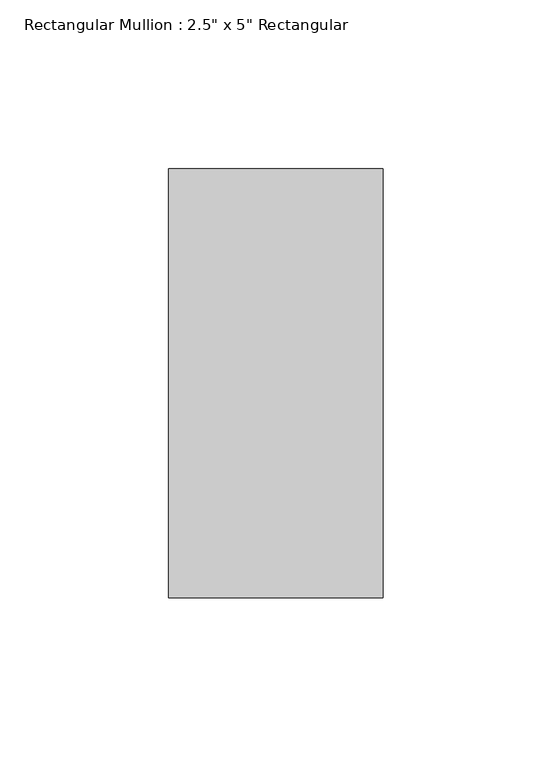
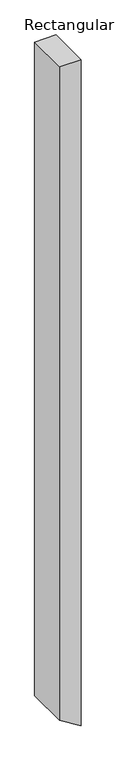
"""IFC4 building model written with IfcOpenShell, lengths in millimetres: member geometry."""

import ifcopenshell
import ifcopenshell.guid

model = None  # the IFC model being written
_history = None  # IfcOwnerHistory: only IFC2X3 demands one
_inside = {}  # id of a spatial element -> (the spatial element, [elements in it])
_under = {}  # id of a project, library or spatial element -> (it, [spatial elements below it])
_declared = {}  # id of a project -> (the project, [libraries it declares])
_typed = {}  # id of a type object -> (the type object, [elements of that type])
_made_of = {}  # id of a material, layer set ... -> (it, [elements and type objects made of it])


def new_model(schema):
    """Start an empty IFC model of exactly this schema.

    Asked for "IFC4X3", IfcOpenShell would pick the latest addendum, in which some entities
    have other attributes; the version numbers below select the first issue.
    IFC2X3 requires an IfcOwnerHistory on every rooted entity: one is made here for all.
    """
    global model, _history
    if schema == "IFC4X3":
        model = ifcopenshell.file(schema_version=(4, 3, 0, 0))
    else:
        model = ifcopenshell.file(schema=schema)
    _inside.clear()
    _under.clear()
    _declared.clear()
    _typed.clear()
    _made_of.clear()
    _history = None
    if model.schema == "IFC2X3":
        org = make("IfcOrganization", Name="unknown")
        user = make(
            "IfcPersonAndOrganization",
            ThePerson=make("IfcPerson", FamilyName="unknown"),
            TheOrganization=org,
        )
        app = make(
            "IfcApplication",
            ApplicationDeveloper=org,
            Version="unknown",
            ApplicationFullName="unknown",
            ApplicationIdentifier="unknown",
        )
        _history = make(
            "IfcOwnerHistory",
            OwningUser=user,
            OwningApplication=app,
            ChangeAction="ADDED",
            CreationDate=0,
        )
    return model


def make(cls, **values):
    """One entity of the class cls with the attributes given. An attribute that is None is left unset."""
    return model.create_entity(
        cls, **{name: value for name, value in values.items() if value is not None}
    )


def rooted(cls, **values):
    """An entity with a GlobalId (a new one), such as an element, a storey or a relation."""
    return make(cls, GlobalId=ifcopenshell.guid.new(), OwnerHistory=_history, **values)


def si_unit(unit_type, name, prefix=None):
    """IfcSIUnit, for example si_unit("LENGTHUNIT", "METRE", prefix="MILLI")."""
    return make("IfcSIUnit", UnitType=unit_type, Prefix=prefix, Name=name)


def assignment(units):
    """IfcUnitAssignment: the units of a project."""
    return None if units is None else make("IfcUnitAssignment", Units=units)


def point(xyz):
    """IfcCartesianPoint."""
    return None if xyz is None else make("IfcCartesianPoint", Coordinates=xyz)


def direction(xyz):
    """IfcDirection."""
    return None if xyz is None else make("IfcDirection", DirectionRatios=xyz)


def frame(location, z_axis=None, x_axis=None):
    """IfcAxis2Placement3D, a coordinate frame: its origin and axes. An axis left out is left unset."""
    return make(
        "IfcAxis2Placement3D",
        Location=point(location),
        Axis=direction(z_axis),
        RefDirection=direction(x_axis),
    )


def origin():
    """The frame at (0, 0, 0) with its axes left unset."""
    return frame((0.0, 0.0, 0.0))


def place(relative_to, where):
    """IfcLocalPlacement: puts the frame where relative to a parent placement (None: the world)."""
    return make(
        "IfcLocalPlacement", PlacementRelTo=relative_to, RelativePlacement=where
    )


def context(
    kind, dimensions, precision=None, world=None, true_north=None, identifier=None
):
    """IfcGeometricRepresentationContext, for example the 3D "Model" context."""
    return make(
        "IfcGeometricRepresentationContext",
        ContextIdentifier=identifier,
        ContextType=kind,
        CoordinateSpaceDimension=dimensions,
        Precision=precision,
        WorldCoordinateSystem=world,
        TrueNorth=true_north,
    )


def project(units=None, contexts=None):
    """IfcProject with its units and contexts."""
    return rooted(
        "IfcProject",
        Name="project",
        RepresentationContexts=contexts,
        UnitsInContext=assignment(units),
    )


def spatial(cls, under=None, at=None, **own):
    """A site, building, storey or space (cls), placed at a placement, below another one or the project."""
    s = rooted(cls, ObjectPlacement=at, **own)
    if under is not None:
        _under.setdefault(under.id(), (under, []))[1].append(s)
    return s


def polyline(points):
    """IfcPolyline through the points."""
    return make("IfcPolyline", Points=[point(p) for p in points])


def outline(outer, holes=None, kind="AREA"):
    """IfcArbitraryClosedProfileDef: a profile drawn as a closed curve; with holes, ...WithVoids."""
    if holes is None:
        return make("IfcArbitraryClosedProfileDef", ProfileType=kind, OuterCurve=outer)
    return make(
        "IfcArbitraryProfileDefWithVoids",
        ProfileType=kind,
        OuterCurve=outer,
        InnerCurves=holes,
    )


def extrude(swept, where, along, depth):
    """IfcExtrudedAreaSolid: the profile swept, set in the frame where, extruded along a direction by depth."""
    return make(
        "IfcExtrudedAreaSolid",
        SweptArea=swept,
        Position=where,
        ExtrudedDirection=direction(along),
        Depth=depth,
    )


def shape(context_of_items, identifier, shape_type, items):
    """IfcShapeRepresentation: the items that make up one representation, for example the "Body"."""
    return make(
        "IfcShapeRepresentation",
        ContextOfItems=context_of_items,
        RepresentationIdentifier=identifier,
        RepresentationType=shape_type,
        Items=items,
    )


def source(mapping_origin, context_of_items, identifier, shape_type, items):
    """IfcRepresentationMap: a shape defined once, which mapped items show again and again."""
    return make(
        "IfcRepresentationMap",
        MappingOrigin=mapping_origin,
        MappedRepresentation=shape(context_of_items, identifier, shape_type, items),
    )


def transform(
    local_origin,
    x_axis=None,
    y_axis=None,
    z_axis=None,
    scale=None,
    scale2=None,
    scale3=None,
    uniform=True,
):
    """IfcCartesianTransformationOperator3D, or its non-uniform kind. x_axis, y_axis, z_axis: its Axis1, 2, 3."""
    if uniform:
        return make(
            "IfcCartesianTransformationOperator3D",
            Axis1=direction(x_axis),
            Axis2=direction(y_axis),
            LocalOrigin=point(local_origin),
            Scale=scale,
            Axis3=direction(z_axis),
        )
    return make(
        "IfcCartesianTransformationOperator3DnonUniform",
        Axis1=direction(x_axis),
        Axis2=direction(y_axis),
        LocalOrigin=point(local_origin),
        Scale=scale,
        Axis3=direction(z_axis),
        Scale2=scale2,
        Scale3=scale3,
    )


def mapped(mapping_source, mapping_target):
    """IfcMappedItem: shows the shape of a source again, moved by a transform."""
    return make(
        "IfcMappedItem", MappingSource=mapping_source, MappingTarget=mapping_target
    )


def made_of(thing, what):
    """Note that an element or type object is made of a material, layer set ...; save() writes the relation."""
    if what is not None:
        _made_of.setdefault(what.id(), (what, []))[1].append(thing)
    return thing


def element(
    cls,
    number,
    at=None,
    inside=None,
    cuts=None,
    type_object=None,
    material=None,
    context=None,
    identifier="Body",
    shape_type=None,
    held_by="IfcProductDefinitionShape",
    body=None,
    shapes=None,
    **own,
):
    """One element of the class cls, such as IfcWall. Its Tag is "e" and its number.

    at: its placement. inside: the storey or other place that contains it. cuts: it is an
    opening in that element (IfcRelVoidsElement). A single representation is given by context,
    identifier, shape_type and body (its items); several are given by shapes. held_by: the class
    of the entity that holds the representations. save() writes the other relations.
    """
    e = rooted(cls, Tag="e%d" % number, ObjectPlacement=at, **own)
    if body is not None:
        shapes = [shape(context, identifier, shape_type, body)]
    if shapes is not None:
        e.Representation = make(held_by, Representations=shapes)
    if inside is not None:
        _inside.setdefault(inside.id(), (inside, []))[1].append(e)
    if cuts is not None:
        rooted(
            "IfcRelVoidsElement", RelatingBuildingElement=cuts, RelatedOpeningElement=e
        )
    if type_object is not None:
        _typed.setdefault(type_object.id(), (type_object, []))[1].append(e)
    return made_of(e, material)


def aggregate(whole, parts):
    """IfcRelAggregates: a whole, such as a stair, and the parts it consists of."""
    return rooted("IfcRelAggregates", RelatingObject=whole, RelatedObjects=parts)


def save(model, path):
    """Write the relations noted so far, then the file.

    IfcRelAggregates (storeys below a building ...), IfcRelContainedInSpatialStructure (elements
    in a storey), IfcRelDefinesByType, IfcRelAssociatesMaterial and IfcRelDeclares: one each for
    every whole, place, type object, material and project.
    """
    for whole, parts in _under.values():
        aggregate(whole, parts)
    for where, things in _inside.values():
        rooted(
            "IfcRelContainedInSpatialStructure",
            RelatedElements=things,
            RelatingStructure=where,
        )
    for kind, things in _typed.values():
        rooted("IfcRelDefinesByType", RelatedObjects=things, RelatingType=kind)
    for what, things in _made_of.values():
        rooted("IfcRelAssociatesMaterial", RelatedObjects=things, RelatingMaterial=what)
    for by, libraries in _declared.values():
        rooted("IfcRelDeclares", RelatingContext=by, RelatedDefinitions=libraries)
    model.write(path)


def member_29905024(model_context):
    return source(origin(), model_context, "Body", "SweptSolid", [
        extrude(outline(polyline([(0.0, 0.0), (0.0, -63.5), (-2034.4210429, -63.5), (-2073.6662011, 0.0), (0.0, 0.0)])), frame((0.0, -63.5, 0.0), z_axis=(0.0, 1.0, 0.0), x_axis=(0.0, 0.0, 1.0)), (0.0, 0.0, 1.0), 127.0),
    ])


if __name__ == "__main__":
    model = new_model("IFC4")
    model_context = context("Model", 3, world=origin())
    ifc_project = project(units=[si_unit("LENGTHUNIT", "METRE", prefix="MILLI")], contexts=[model_context])
    site = spatial("IfcSite", under=ifc_project)
    building = spatial("IfcBuilding", under=site)
    placement = place(None, origin())
    member_shape = member_29905024(model_context)
    element("IfcMember", 1, ObjectType="Rectangular Mullion : 2.5\" x 5\" Rectangular", at=placement, inside=building, context=model_context, shape_type="MappedRepresentation", body=[
        mapped(member_shape, transform((0.0, 0.0, 0.0), x_axis=(1.0, 0.0, 0.0), y_axis=(0.0, 1.0, 0.0), z_axis=(0.0, 0.0, 1.0))),
    ])
    save(model, "model.ifc")
